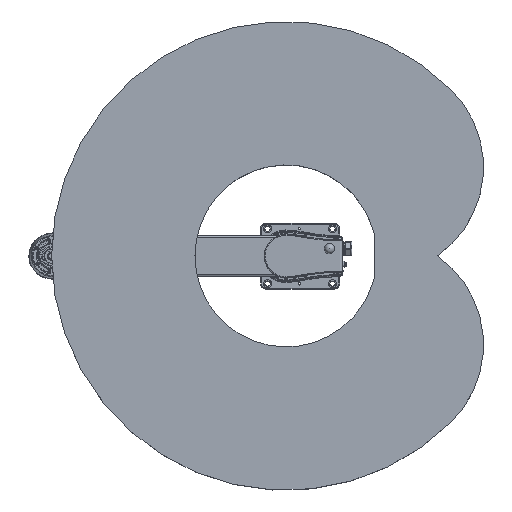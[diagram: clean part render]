
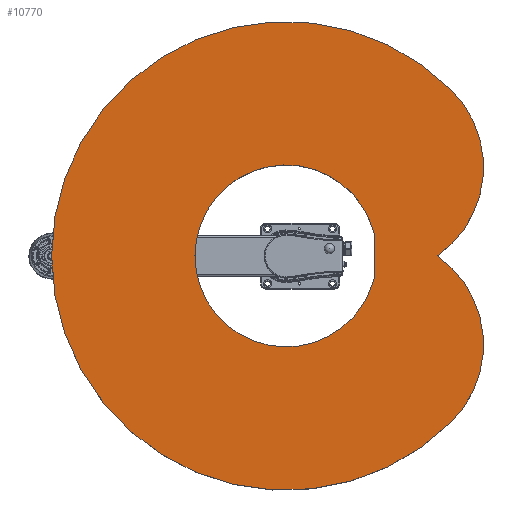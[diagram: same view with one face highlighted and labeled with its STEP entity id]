
A CAD part, top view. The second image highlights one B-rep face of the part: STEP entity #10770.
In plain terms, the highlighted planar face has unit normal (0, 0, 1) as drawn and (0, 1, 0) by its records, which use the part's own axes.
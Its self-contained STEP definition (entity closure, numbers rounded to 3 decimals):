
#1945 = CARTESIAN_POINT ( 'NONE',  ( 0., 200., 0. ) ) ;
#1946 = DIRECTION ( 'NONE',  ( 0., 1., 0. ) ) ;
#1947 = DIRECTION ( 'NONE',  ( 0., 0., 1. ) ) ;
#1962 = CARTESIAN_POINT ( 'NONE',  ( 0., 200., 0. ) ) ;
#1963 = DIRECTION ( 'NONE',  ( 0., 1., 0. ) ) ;
#1964 = DIRECTION ( 'NONE',  ( 0., 0., 1. ) ) ;
#1983 = CARTESIAN_POINT ( 'NONE',  ( 265.165, 200., 265.165 ) ) ;
#1984 = DIRECTION ( 'NONE',  ( 0., 1., 0. ) ) ;
#1985 = DIRECTION ( 'NONE',  ( 0., 0., 1. ) ) ;
#1987 = CARTESIAN_POINT ( 'NONE',  ( 59.835, 200., 265.165 ) ) ;
#1988 = CARTESIAN_POINT ( 'NONE',  ( 0., 200., 0. ) ) ;
#1989 = DIRECTION ( 'NONE',  ( 0., 1., 0. ) ) ;
#1990 = DIRECTION ( 'NONE',  ( 0., 0., 1. ) ) ;
#1992 = LINE ( 'NONE', #1987, #51530 ) ;
#1993 = CARTESIAN_POINT ( 'NONE',  ( -265.165, 200., 265.165 ) ) ;
#1994 = DIRECTION ( 'NONE',  ( 0., 1., 0. ) ) ;
#1996 = DIRECTION ( 'NONE',  ( 0., 0., 1. ) ) ;
#1998 = DIRECTION ( 'NONE',  ( 1., 0., 0. ) ) ;
#2002 = CARTESIAN_POINT ( 'NONE',  ( 0., 200., 0. ) ) ;
#2003 = DIRECTION ( 'NONE',  ( 0., 1., 0. ) ) ;
#2004 = DIRECTION ( 'NONE',  ( 0., 0., 1. ) ) ;
#10770 = ADVANCED_FACE ( 'NONE', ( #66430, #66434 ), #66437, .T. ) ;
#51345 = AXIS2_PLACEMENT_3D ( 'NONE', #1945, #1946, #1947 ) ;
#51348 = CIRCLE ( 'NONE', #51345, 271.832 ) ;
#51368 = AXIS2_PLACEMENT_3D ( 'NONE', #1962, #1963, #1964 ) ;
#51399 = CIRCLE ( 'NONE', #51368, 700. ) ;
#51420 = CIRCLE ( 'NONE', #51502, 325. ) ;
#51443 = AXIS2_PLACEMENT_3D ( 'NONE', #1983, #1984, #1985 ) ;
#51448 = CIRCLE ( 'NONE', #51443, 325. ) ;
#51473 = CIRCLE ( 'NONE', #51497, 700. ) ;
#51497 = AXIS2_PLACEMENT_3D ( 'NONE', #1988, #1989, #1990 ) ;
#51502 = AXIS2_PLACEMENT_3D ( 'NONE', #1993, #1994, #1996 ) ;
#51524 = AXIS2_PLACEMENT_3D ( 'NONE', #2002, #2003, #2004 ) ;
#51527 = CIRCLE ( 'NONE', #51524, 271.832 ) ;
#51530 = VECTOR ( 'NONE', #1998, 1000. ) ;
#62894 = AXIS2_PLACEMENT_3D ( 'NONE', #66428, #66425, #66440 ) ;
#66425 = DIRECTION ( 'NONE',  ( 0., 1., 0. ) ) ;
#66428 = CARTESIAN_POINT ( 'NONE',  ( 132.583, 200., 132.583 ) ) ;
#66430 = FACE_OUTER_BOUND ( 'NONE', #90146, .T. ) ;
#66434 = FACE_BOUND ( 'NONE', #90166, .T. ) ;
#66437 = PLANE ( 'NONE',  #62894 ) ;
#66440 = DIRECTION ( 'NONE',  ( 0., 0., 1. ) ) ;
#77676 = VERTEX_POINT ( 'NONE', #106722 ) ;
#77713 = VERTEX_POINT ( 'NONE', #106756 ) ;
#77727 = VERTEX_POINT ( 'NONE', #106771 ) ;
#77736 = VERTEX_POINT ( 'NONE', #106779 ) ;
#77739 = VERTEX_POINT ( 'NONE', #106781 ) ;
#77742 = VERTEX_POINT ( 'NONE', #106784 ) ;
#77750 = VERTEX_POINT ( 'NONE', #106793 ) ;
#90146 = EDGE_LOOP ( 'NONE', ( #95477, #95473, #95469, #95467 ) ) ;
#90166 = EDGE_LOOP ( 'NONE', ( #95463, #95459, #95455 ) ) ;
#95455 = ORIENTED_EDGE ( 'NONE', *, *, #102762, .F. ) ;
#95459 = ORIENTED_EDGE ( 'NONE', *, *, #102799, .F. ) ;
#95463 = ORIENTED_EDGE ( 'NONE', *, *, #102795, .F. ) ;
#95467 = ORIENTED_EDGE ( 'NONE', *, *, #102791, .T. ) ;
#95469 = ORIENTED_EDGE ( 'NONE', *, *, #102773, .T. ) ;
#95473 = ORIENTED_EDGE ( 'NONE', *, *, #102789, .T. ) ;
#95477 = ORIENTED_EDGE ( 'NONE', *, *, #102787, .T. ) ;
#102762 = EDGE_CURVE ( 'NONE', #77676, #77713, #51348, .T. ) ;
#102773 = EDGE_CURVE ( 'NONE', #77727, #77736, #51399, .T. ) ;
#102787 = EDGE_CURVE ( 'NONE', #77739, #77742, #51448, .T. ) ;
#102789 = EDGE_CURVE ( 'NONE', #77742, #77727, #51473, .T. ) ;
#102791 = EDGE_CURVE ( 'NONE', #77736, #77739, #51420, .T. ) ;
#102795 = EDGE_CURVE ( 'NONE', #77750, #77676, #1992, .T. ) ;
#102799 = EDGE_CURVE ( 'NONE', #77713, #77750, #51527, .T. ) ;
#106722 = CARTESIAN_POINT ( 'NONE',  ( 59.835, 200., 265.165 ) ) ;
#106756 = CARTESIAN_POINT ( 'NONE',  ( 0., 200., -271.832 ) ) ;
#106771 = CARTESIAN_POINT ( 'NONE',  ( 0., 200., -700. ) ) ;
#106779 = CARTESIAN_POINT ( 'NONE',  ( -494.975, 200., 494.975 ) ) ;
#106781 = CARTESIAN_POINT ( 'NONE',  ( 0., 200., 453.081 ) ) ;
#106784 = CARTESIAN_POINT ( 'NONE',  ( 494.975, 200., 494.975 ) ) ;
#106793 = CARTESIAN_POINT ( 'NONE',  ( -59.835, 200., 265.165 ) ) ;
